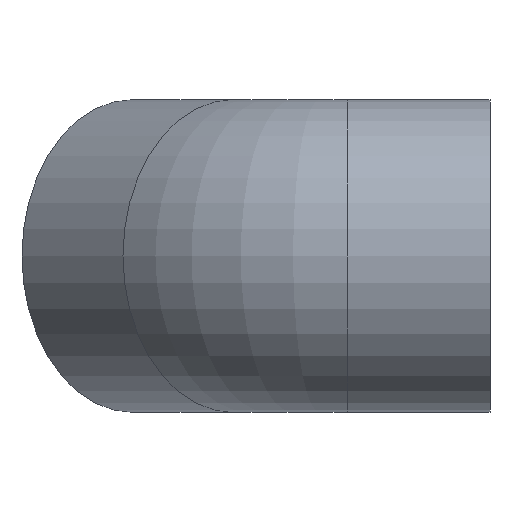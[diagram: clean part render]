
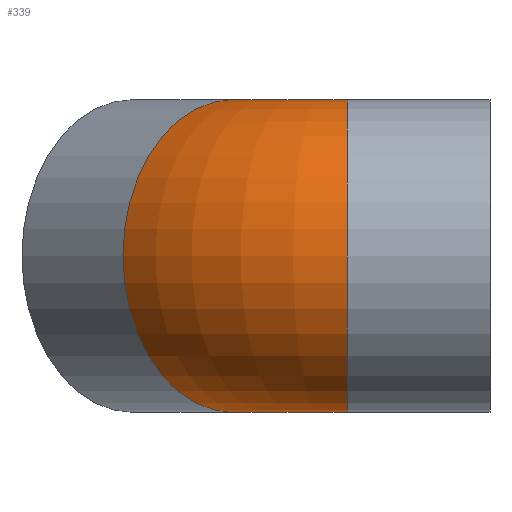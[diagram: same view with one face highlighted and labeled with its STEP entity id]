
A CAD part, left-side view. The second image highlights one B-rep face of the part: STEP entity #339.
In plain terms, the highlighted toroidal (fillet/blend) face has major radius 54.5 mm and minor radius 53 mm.
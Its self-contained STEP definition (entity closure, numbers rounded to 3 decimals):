
#16=TOROIDAL_SURFACE('',#369,54.5,53.);
#23=FACE_BOUND('',#102,.T.);
#71=FACE_OUTER_BOUND('',#101,.T.);
#101=EDGE_LOOP('',(#293));
#102=EDGE_LOOP('',(#294));
#122=CIRCLE('',#368,53.);
#123=CIRCLE('',#370,53.);
#174=VERTEX_POINT('',#12168);
#175=VERTEX_POINT('',#12171);
#218=EDGE_CURVE('',#174,#174,#122,.T.);
#219=EDGE_CURVE('',#175,#175,#123,.T.);
#293=ORIENTED_EDGE('',*,*,#218,.F.);
#294=ORIENTED_EDGE('',*,*,#219,.T.);
#339=ADVANCED_FACE('',(#71,#23),#16,.T.);
#368=AXIS2_PLACEMENT_3D('',#12169,#429,#430);
#369=AXIS2_PLACEMENT_3D('',#12170,#431,#432);
#370=AXIS2_PLACEMENT_3D('',#12172,#433,#434);
#429=DIRECTION('center_axis',(0.707,0.707,0.));
#430=DIRECTION('ref_axis',(0.707,-0.707,0.));
#431=DIRECTION('center_axis',(0.,0.,-1.));
#432=DIRECTION('ref_axis',(-1.,0.,0.));
#433=DIRECTION('center_axis',(0.,1.,0.));
#434=DIRECTION('ref_axis',(1.,0.,0.));
#12168=CARTESIAN_POINT('',(-21.514,124.439,0.));
#12169=CARTESIAN_POINT('Origin',(15.963,86.963,0.));
#12170=CARTESIAN_POINT('Origin',(54.5,48.425,0.));
#12171=CARTESIAN_POINT('',(-53.,48.425,0.));
#12172=CARTESIAN_POINT('Origin',(0.,48.425,0.));
